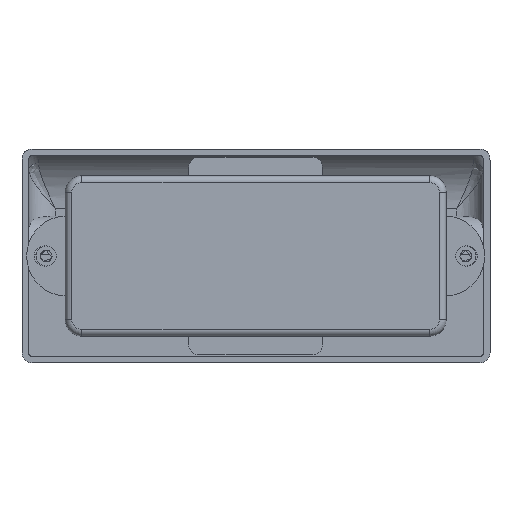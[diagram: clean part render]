
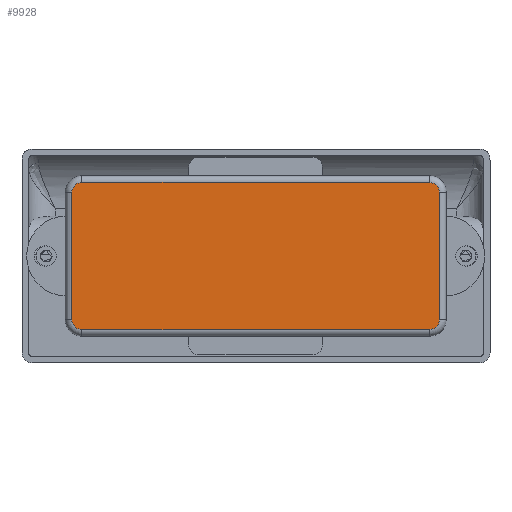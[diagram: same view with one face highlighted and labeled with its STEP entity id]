
A CAD part, front view. The second image highlights one B-rep face of the part: STEP entity #9928.
In plain terms, the highlighted planar face has unit normal (0, -1, 0).
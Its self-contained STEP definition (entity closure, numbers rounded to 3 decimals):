
#184 = ORIENTED_EDGE ( 'NONE', *, *, #3254, .T. ) ;
#432 = CIRCLE ( 'NONE', #4280, 3. ) ;
#449 = DIRECTION ( 'NONE',  ( 0., -1., 0. ) ) ;
#801 = DIRECTION ( 'NONE',  ( -1., 0., 0. ) ) ;
#848 = CARTESIAN_POINT ( 'NONE',  ( 52., 0., -19. ) ) ;
#935 = EDGE_CURVE ( 'NONE', #12695, #15825, #8999, .T. ) ;
#1657 = VERTEX_POINT ( 'NONE', #3913 ) ;
#1661 = ORIENTED_EDGE ( 'NONE', *, *, #935, .T. ) ;
#1792 = AXIS2_PLACEMENT_3D ( 'NONE', #10585, #449, #5525 ) ;
#1890 = EDGE_CURVE ( 'NONE', #11665, #2364, #9937, .T. ) ;
#1934 = ORIENTED_EDGE ( 'NONE', *, *, #11530, .T. ) ;
#2175 = DIRECTION ( 'NONE',  ( 0., 0., -1. ) ) ;
#2364 = VERTEX_POINT ( 'NONE', #10951 ) ;
#2405 = PLANE ( 'NONE',  #16597 ) ;
#2662 = VECTOR ( 'NONE', #6076, 1000. ) ;
#2750 = ORIENTED_EDGE ( 'NONE', *, *, #5766, .T. ) ;
#3129 = CARTESIAN_POINT ( 'NONE',  ( -55., 0., -19. ) ) ;
#3192 = VECTOR ( 'NONE', #13950, 1000. ) ;
#3254 = EDGE_CURVE ( 'NONE', #3948, #12695, #7447, .T. ) ;
#3397 = LINE ( 'NONE', #15071, #3192 ) ;
#3913 = CARTESIAN_POINT ( 'NONE',  ( 52., 0., 22. ) ) ;
#3948 = VERTEX_POINT ( 'NONE', #6779 ) ;
#4280 = AXIS2_PLACEMENT_3D ( 'NONE', #848, #16535, #13628 ) ;
#4470 = CARTESIAN_POINT ( 'NONE',  ( -52., 0., 19. ) ) ;
#4478 = CARTESIAN_POINT ( 'NONE',  ( -52., 0., 22. ) ) ;
#5112 = CARTESIAN_POINT ( 'NONE',  ( 55., 0., -19. ) ) ;
#5177 = CARTESIAN_POINT ( 'NONE',  ( -55., 0., 19. ) ) ;
#5210 = VECTOR ( 'NONE', #15167, 1000. ) ;
#5312 = DIRECTION ( 'NONE',  ( 0., -1., 0. ) ) ;
#5525 = DIRECTION ( 'NONE',  ( 0., 0., -1. ) ) ;
#5766 = EDGE_CURVE ( 'NONE', #15825, #15934, #6848, .T. ) ;
#5863 = CARTESIAN_POINT ( 'NONE',  ( -52., 0., -19. ) ) ;
#6076 = DIRECTION ( 'NONE',  ( 0., 0., -1. ) ) ;
#6294 = ORIENTED_EDGE ( 'NONE', *, *, #13426, .T. ) ;
#6725 = CIRCLE ( 'NONE', #1792, 3. ) ;
#6779 = CARTESIAN_POINT ( 'NONE',  ( -52., 0., 22. ) ) ;
#6848 = CIRCLE ( 'NONE', #14791, 3. ) ;
#6893 = AXIS2_PLACEMENT_3D ( 'NONE', #4470, #9705, #12195 ) ;
#7447 = CIRCLE ( 'NONE', #6893, 3. ) ;
#7974 = DIRECTION ( 'NONE',  ( 0., 0., -1. ) ) ;
#8437 = ORIENTED_EDGE ( 'NONE', *, *, #8654, .T. ) ;
#8654 = EDGE_CURVE ( 'NONE', #2364, #1657, #6725, .T. ) ;
#8999 = LINE ( 'NONE', #16629, #2662 ) ;
#9084 = VERTEX_POINT ( 'NONE', #16659 ) ;
#9274 = ORIENTED_EDGE ( 'NONE', *, *, #10494, .T. ) ;
#9705 = DIRECTION ( 'NONE',  ( 0., -1., 0. ) ) ;
#9928 = ADVANCED_FACE ( 'NONE', ( #16811 ), #2405, .T. ) ;
#9937 = LINE ( 'NONE', #13790, #5210 ) ;
#10494 = EDGE_CURVE ( 'NONE', #9084, #11665, #432, .T. ) ;
#10585 = CARTESIAN_POINT ( 'NONE',  ( 52., 0., 19. ) ) ;
#10589 = EDGE_LOOP ( 'NONE', ( #8437, #6294, #184, #1661, #2750, #1934, #9274, #15765 ) ) ;
#10951 = CARTESIAN_POINT ( 'NONE',  ( 55., 0., 19. ) ) ;
#11253 = LINE ( 'NONE', #4478, #13854 ) ;
#11530 = EDGE_CURVE ( 'NONE', #15934, #9084, #3397, .T. ) ;
#11665 = VERTEX_POINT ( 'NONE', #5112 ) ;
#12195 = DIRECTION ( 'NONE',  ( 0., 0., -1. ) ) ;
#12695 = VERTEX_POINT ( 'NONE', #5177 ) ;
#12869 = CARTESIAN_POINT ( 'NONE',  ( 52., 0., 19. ) ) ;
#13426 = EDGE_CURVE ( 'NONE', #1657, #3948, #11253, .T. ) ;
#13628 = DIRECTION ( 'NONE',  ( 0., 0., -1. ) ) ;
#13790 = CARTESIAN_POINT ( 'NONE',  ( 55., 0., 19. ) ) ;
#13854 = VECTOR ( 'NONE', #801, 1000. ) ;
#13950 = DIRECTION ( 'NONE',  ( 1., 0., 0. ) ) ;
#14791 = AXIS2_PLACEMENT_3D ( 'NONE', #5863, #14963, #2175 ) ;
#14963 = DIRECTION ( 'NONE',  ( 0., -1., 0. ) ) ;
#15071 = CARTESIAN_POINT ( 'NONE',  ( 52., 0., -22. ) ) ;
#15167 = DIRECTION ( 'NONE',  ( 0., 0., 1. ) ) ;
#15765 = ORIENTED_EDGE ( 'NONE', *, *, #1890, .T. ) ;
#15825 = VERTEX_POINT ( 'NONE', #3129 ) ;
#15934 = VERTEX_POINT ( 'NONE', #16228 ) ;
#16228 = CARTESIAN_POINT ( 'NONE',  ( -52., 0., -22. ) ) ;
#16535 = DIRECTION ( 'NONE',  ( 0., -1., 0. ) ) ;
#16597 = AXIS2_PLACEMENT_3D ( 'NONE', #12869, #5312, #7974 ) ;
#16629 = CARTESIAN_POINT ( 'NONE',  ( -55., 0., -19. ) ) ;
#16659 = CARTESIAN_POINT ( 'NONE',  ( 52., 0., -22. ) ) ;
#16811 = FACE_OUTER_BOUND ( 'NONE', #10589, .T. ) ;
